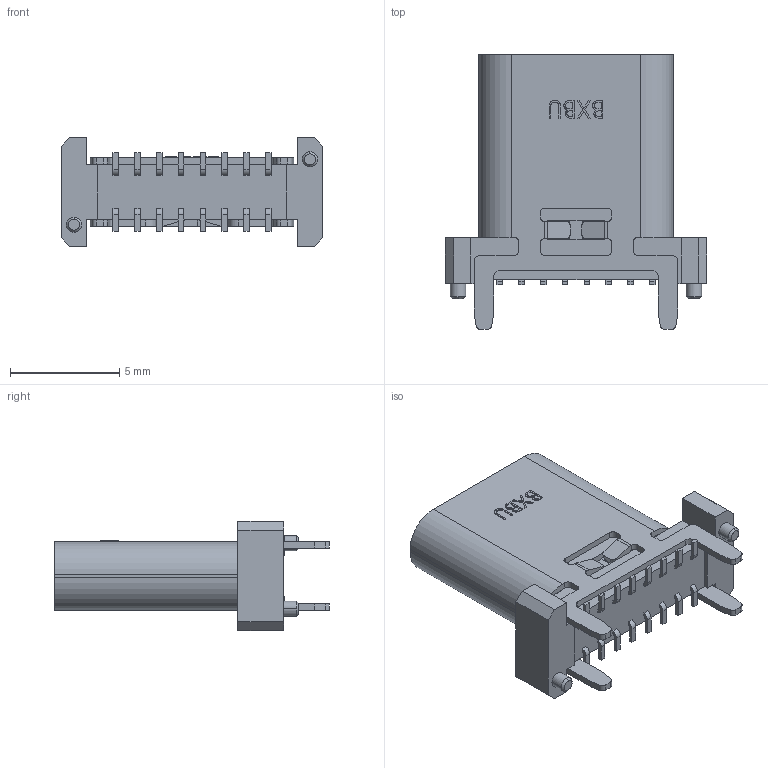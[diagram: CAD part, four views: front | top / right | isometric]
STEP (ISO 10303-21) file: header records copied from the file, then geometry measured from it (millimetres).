
FILE_DESCRIPTION (( 'STEP AP203' ), '1' );
FILE_NAME ('U5106-16PN10.5L.STEP', '2026-09-21T06:16:24', ( '' ), ( '' ), 'SwSTEP 2.0', 'SolidWorks 2024', '' );
FILE_SCHEMA (( 'CONFIG_CONTROL_DESIGN' ));
Length unit declared in the file: millimetre
Products named in the file (1): U5106-16PN10.5L
Bounding box: 12 x 12.6 x 5 mm (x, y, z)
Volume: 215 mm3; surface area: 712.1 mm2
Topology: 2 solids, 2 shells, 539 faces, 1490 edges, 988 vertices
Faces by surface type: plane 364, cylinder 138, bspline 25, cone 12
Entity records: 18539 total; most frequent: CARTESIAN_POINT 4597, ORIENTED_EDGE 2980, DIRECTION 2752, EDGE_CURVE 1490, VECTOR 1130, LINE 1130, VERTEX_POINT 988, AXIS2_PLACEMENT_3D 811
